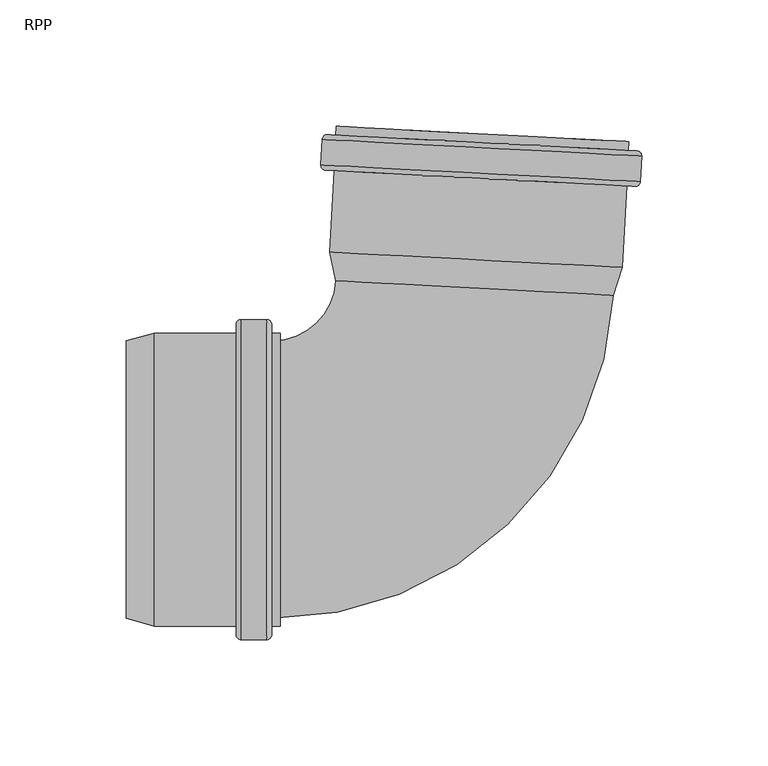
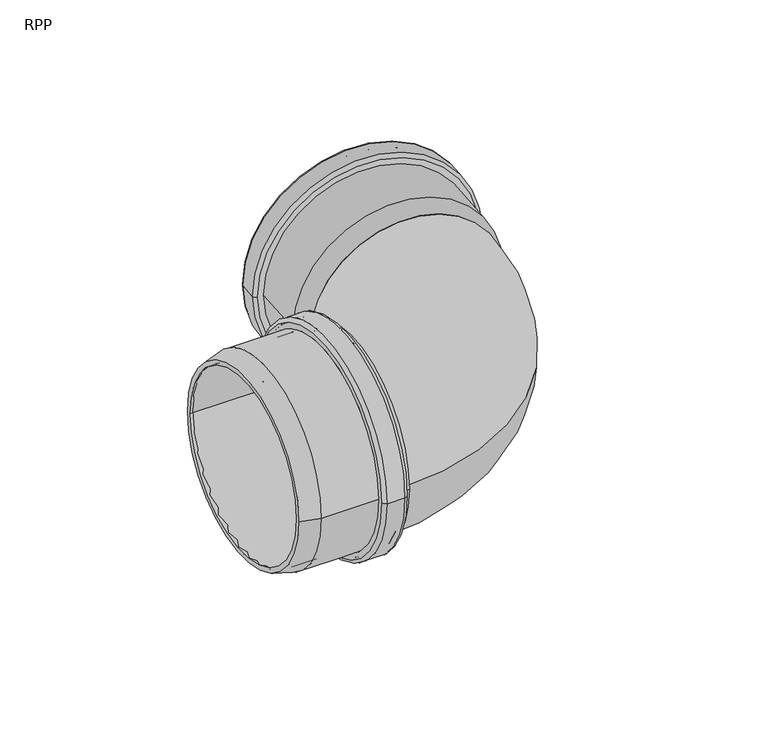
"""IFC4 building model written with IfcOpenShell, lengths in millimetres: pipe fitting geometry, RAUPIANO PLUS Bend : RPP."""

from ifc_helpers import new_model, si_unit, point, frame, origin, place, context, project, spatial, polyline, circle_curve, ellipse_curve, trimmed, source, transform, mapped, element, save
from ifc_brep_helpers import plane_surface, cylinder_surface, revolved_surface, advanced_brep


def rpp_4773ea2c(model_context):
    return source(origin(), model_context, "Body", "AdvancedBrep", [
        advanced_brep(
        [(-87.8, -55.3, 0.0), (-87.8, 55.3, 0.0), (-122.4483858, 55.3, 0.0), (-122.4483858, -55.3, 0.0), (-87.3, -60.7, 0.0), (-87.3, 60.7, 0.0), (-87.8, 60.2, 0.0), (-87.8, -60.2, 0.0), (-79.6, -60.7, 0.0), (-79.6, 60.7, 0.0), (-79.1, -60.2, 0.0), (-79.1, 60.2, 0.0), (-72.9, -55.3, 0.0), (-72.9, 55.3, 0.0), (-79.1, 55.3, 0.0), (-79.1, -55.3, 0.0), (-76.4, -58.0, 0.0), (-76.4, 58.0, 0.0), (-72.9, 58.0, 0.0), (-72.9, -58.0, 0.0), (-78.4, -63.4, 0.0), (-78.4, 63.4, 0.0), (-76.4, 61.4, 0.0), (-76.4, -61.4, 0.0), (-88.5, -63.4, 0.0), (-88.5, 63.4, 0.0), (-90.5, -61.4, 0.0), (-90.5, 61.4, 0.0), (-122.8038476, -58.0, 0.0), (-122.8038476, 58.0, 0.0), (-90.5, 58.0, 0.0), (-90.5, -58.0, 0.0), (-134.0, -55.0, 0.0), (-134.0, 55.0, 0.0), (-134.0, 52.2047543, 0.0), (-134.0, -52.2047543, 0.0)],
        [
            (0, 1, circle_curve(frame((-87.8, 0.0, 0.0), z_axis=(1.0, 0.0, 0.0), x_axis=(0.0, 1.0, 0.0)), 55.3)),
            (1, 2),
            (2, 3, circle_curve(frame((-122.4483858, 0.0, 0.0), z_axis=(-1.0, 0.0, 0.0), x_axis=(0.0, 1.0, 0.0)), 55.3)),
            (3, 0),
            (4, 5, circle_curve(frame((-87.3, 0.0, 0.0), z_axis=(1.0, 0.0, 0.0), x_axis=(0.0, 1.0, 0.0)), 60.7)),
            (5, 6, circle_curve(frame((-87.3, 60.2, 0.0), z_axis=(0.0, 0.0, 1.0), x_axis=(0.0, -1.0, 0.0)), 0.5)),
            (6, 7, circle_curve(frame((-87.8, 0.0, 0.0), z_axis=(-1.0, 0.0, 0.0), x_axis=(0.0, 1.0, 0.0)), 60.2)),
            (7, 4, circle_curve(frame((-87.3, -60.2, 0.0), z_axis=(0.0, 0.0, 1.0), x_axis=(0.0, 1.0, 0.0)), 0.5)),
            (8, 9, circle_curve(frame((-79.6, 0.0, 0.0), z_axis=(1.0, 0.0, 0.0), x_axis=(0.0, 1.0, 0.0)), 60.7)),
            (9, 5),
            (4, 8),
            (10, 11, circle_curve(frame((-79.1, 0.0, 0.0), z_axis=(1.0, 0.0, 0.0), x_axis=(0.0, 1.0, 0.0)), 60.2)),
            (11, 9, circle_curve(frame((-79.6, 60.2, 0.0), z_axis=(0.0, 0.0, 1.0), x_axis=(0.0, -1.0, 0.0)), 0.5)),
            (8, 10, circle_curve(frame((-79.6, -60.2, 0.0), z_axis=(0.0, 0.0, 1.0), x_axis=(0.0, 1.0, 0.0)), 0.5)),
            (12, 13, circle_curve(frame((-72.9, 0.0, 0.0), z_axis=(1.0, 0.0, 0.0), x_axis=(0.0, 1.0, 0.0)), 55.3)),
            (13, 14),
            (14, 15, circle_curve(frame((-79.1, 0.0, 0.0), z_axis=(-1.0, 0.0, 0.0), x_axis=(0.0, 1.0, 0.0)), 55.3)),
            (15, 12),
            (16, 17, circle_curve(frame((-76.4, 0.0, 0.0), z_axis=(1.0, 0.0, 0.0), x_axis=(0.0, 1.0, 0.0)), 58.0)),
            (17, 18),
            (18, 19, circle_curve(frame((-72.9, 0.0, 0.0), z_axis=(-1.0, 0.0, 0.0), x_axis=(0.0, 1.0, 0.0)), 58.0)),
            (19, 16),
            (20, 21, circle_curve(frame((-78.4, 0.0, 0.0), z_axis=(1.0, 0.0, 0.0), x_axis=(0.0, 1.0, 0.0)), 63.4)),
            (21, 22, circle_curve(frame((-78.4, 61.4, 0.0), z_axis=(0.0, 0.0, -1.0), x_axis=(0.0, -1.0, 0.0)), 2.0)),
            (22, 23, circle_curve(frame((-76.4, 0.0, 0.0), z_axis=(-1.0, 0.0, 0.0), x_axis=(0.0, 1.0, 0.0)), 61.4)),
            (23, 20, circle_curve(frame((-78.4, -61.4, 0.0), z_axis=(0.0, 0.0, -1.0), x_axis=(0.0, 1.0, 0.0)), 2.0)),
            (24, 25, circle_curve(frame((-88.5, 0.0, 0.0), z_axis=(1.0, 0.0, 0.0), x_axis=(0.0, 1.0, 0.0)), 63.4)),
            (25, 21),
            (20, 24),
            (26, 27, circle_curve(frame((-90.5, 0.0, 0.0), z_axis=(1.0, 0.0, 0.0), x_axis=(0.0, 1.0, 0.0)), 61.4)),
            (27, 25, circle_curve(frame((-88.5, 61.4, 0.0), z_axis=(0.0, 0.0, -1.0), x_axis=(0.0, -1.0, 0.0)), 2.0)),
            (24, 26, circle_curve(frame((-88.5, -61.4, 0.0), z_axis=(0.0, 0.0, -1.0), x_axis=(0.0, 1.0, 0.0)), 2.0)),
            (28, 29, circle_curve(frame((-122.8038476, 0.0, 0.0), z_axis=(1.0, 0.0, 0.0), x_axis=(0.0, 1.0, 0.0)), 58.0)),
            (29, 30),
            (30, 31, circle_curve(frame((-90.5, 0.0, 0.0), z_axis=(-1.0, 0.0, 0.0), x_axis=(0.0, 1.0, 0.0)), 58.0)),
            (31, 28),
            (32, 33, circle_curve(frame((-134.0, 0.0, 0.0), z_axis=(1.0, 0.0, 0.0), x_axis=(0.0, 1.0, 0.0)), 55.0)),
            (33, 29),
            (28, 32),
            (2, 34),
            (34, 35, circle_curve(frame((-134.0, 0.0, 0.0), z_axis=(-1.0, 0.0, 0.0), x_axis=(0.0, 1.0, 0.0)), 52.2047543)),
            (35, 3),
            (1, 0, circle_curve(frame((-87.8, 0.0, 0.0), z_axis=(1.0, 0.0, 0.0), x_axis=(0.0, -1.0, 0.0)), 55.3)),
            (3, 2, circle_curve(frame((-122.4483858, 0.0, 0.0), z_axis=(-1.0, 0.0, 0.0), x_axis=(0.0, -1.0, 0.0)), 55.3)),
            (6, 7, circle_curve(frame((-87.8, 0.0, 0.0), z_axis=(1.0, 0.0, 0.0), x_axis=(0.0, -1.0, 0.0)), 60.2)),
            (5, 4, circle_curve(frame((-87.3, 0.0, 0.0), z_axis=(1.0, 0.0, 0.0), x_axis=(0.0, -1.0, 0.0)), 60.7)),
            (9, 8, circle_curve(frame((-79.6, 0.0, 0.0), z_axis=(1.0, 0.0, 0.0), x_axis=(0.0, -1.0, 0.0)), 60.7)),
            (11, 10, circle_curve(frame((-79.1, 0.0, 0.0), z_axis=(1.0, 0.0, 0.0), x_axis=(0.0, -1.0, 0.0)), 60.2)),
            (14, 15, circle_curve(frame((-79.1, 0.0, 0.0), z_axis=(1.0, 0.0, 0.0), x_axis=(0.0, -1.0, 0.0)), 55.3)),
            (13, 12, circle_curve(frame((-72.9, 0.0, 0.0), z_axis=(1.0, 0.0, 0.0), x_axis=(0.0, -1.0, 0.0)), 55.3)),
            (18, 19, circle_curve(frame((-72.9, 0.0, 0.0), z_axis=(1.0, 0.0, 0.0), x_axis=(0.0, -1.0, 0.0)), 58.0)),
            (17, 16, circle_curve(frame((-76.4, 0.0, 0.0), z_axis=(1.0, 0.0, 0.0), x_axis=(0.0, -1.0, 0.0)), 58.0)),
            (22, 23, circle_curve(frame((-76.4, 0.0, 0.0), z_axis=(1.0, 0.0, 0.0), x_axis=(0.0, -1.0, 0.0)), 61.4)),
            (21, 20, circle_curve(frame((-78.4, 0.0, 0.0), z_axis=(1.0, 0.0, 0.0), x_axis=(0.0, -1.0, 0.0)), 63.4)),
            (25, 24, circle_curve(frame((-88.5, 0.0, 0.0), z_axis=(1.0, 0.0, 0.0), x_axis=(0.0, -1.0, 0.0)), 63.4)),
            (27, 26, circle_curve(frame((-90.5, 0.0, 0.0), z_axis=(1.0, 0.0, 0.0), x_axis=(0.0, -1.0, 0.0)), 61.4)),
            (30, 31, circle_curve(frame((-90.5, 0.0, 0.0), z_axis=(1.0, 0.0, 0.0), x_axis=(0.0, -1.0, 0.0)), 58.0)),
            (29, 28, circle_curve(frame((-122.8038476, 0.0, 0.0), z_axis=(1.0, 0.0, 0.0), x_axis=(0.0, -1.0, 0.0)), 58.0)),
            (33, 32, circle_curve(frame((-134.0, 0.0, 0.0), z_axis=(1.0, 0.0, 0.0), x_axis=(0.0, -1.0, 0.0)), 55.0)),
            (34, 35, circle_curve(frame((-134.0, 0.0, 0.0), z_axis=(1.0, 0.0, 0.0), x_axis=(0.0, -1.0, 0.0)), 52.2047543)),
        ],
        [
            revolved_surface(polyline([(-122.4483858, 55.3, 0.0), (-87.8, 55.3, 0.0)]), (-134.0, 0.0, 0.0), (-1.0, 0.0, 0.0)),
            revolved_surface(trimmed(ellipse_curve(frame((-87.3, 60.2, 0.0), z_axis=(0.0, 0.0, -1.0), x_axis=(0.0, -1.0, 0.0)), 0.5, 0.5), [point((-87.8, 60.2, 0.0))], [point((-87.3, 60.7, 0.0))], True, "CARTESIAN"), (-134.0, 0.0, 0.0), (-1.0, 0.0, 0.0)),
            revolved_surface(polyline([(-87.3, 60.7, 0.0), (-79.6, 60.7, 0.0)]), (-134.0, 0.0, 0.0), (-1.0, 0.0, 0.0)),
            revolved_surface(trimmed(ellipse_curve(frame((-79.6, 60.2, 0.0), z_axis=(0.0, 0.0, -1.0), x_axis=(0.0, -1.0, 0.0)), 0.5, 0.5), [point((-79.6, 60.7, 0.0))], [point((-79.1, 60.2, 0.0))], True, "CARTESIAN"), (-134.0, 0.0, 0.0), (-1.0, 0.0, 0.0)),
            revolved_surface(polyline([(-79.1, 55.3, 0.0), (-72.9, 55.3, 0.0)]), (-134.0, 0.0, 0.0), (-1.0, 0.0, 0.0)),
            cylinder_surface(frame((-134.0, 0.0, 0.0), z_axis=(-1.0, 0.0, 0.0), x_axis=(0.0, 1.0, 0.0)), 58.0),
            revolved_surface(trimmed(ellipse_curve(frame((-78.4, 61.4, 0.0), z_axis=(0.0, 0.0, 1.0), x_axis=(0.0, -1.0, 0.0)), 2.0, 2.0), [point((-76.4, 61.4, 0.0))], [point((-78.4, 63.4, 0.0))], True, "CARTESIAN"), (-134.0, 0.0, 0.0), (-1.0, 0.0, 0.0)),
            cylinder_surface(frame((-134.0, 0.0, 0.0), z_axis=(-1.0, 0.0, 0.0), x_axis=(0.0, 1.0, 0.0)), 63.4),
            revolved_surface(trimmed(ellipse_curve(frame((-88.5, 61.4, 0.0), z_axis=(0.0, 0.0, 1.0), x_axis=(0.0, -1.0, 0.0)), 2.0, 2.0), [point((-88.5, 63.4, 0.0))], [point((-90.5, 61.4, 0.0))], True, "CARTESIAN"), (-134.0, 0.0, 0.0), (-1.0, 0.0, 0.0)),
            revolved_surface(polyline([(-122.8038476, 58.0, 0.0), (-134.0, 55.0, 0.0)]), (-134.0, 0.0, 0.0), (-1.0, 0.0, 0.0)),
            revolved_surface(polyline([(-134.0, 52.2047543, 0.0), (-122.4483858, 55.3, 0.0)]), (-134.0, 0.0, 0.0), (-1.0, 0.0, 0.0)),
            revolved_surface(polyline([(-122.4483858, -55.3, 0.0), (-87.8, -55.3, 0.0)]), (-134.0, 0.0, 0.0), (-1.0, 0.0, 0.0)),
            plane_surface(frame((-87.8, 0.0, 0.0), z_axis=(1.0, 0.0, 0.0), x_axis=(0.0, -1.0, 0.0))),
            revolved_surface(trimmed(ellipse_curve(frame((-87.3, -60.2, 0.0), z_axis=(0.0, 0.0, 1.0), x_axis=(0.0, 1.0, 0.0)), 0.5, 0.5), [point((-87.8, -60.2, 0.0))], [point((-87.3, -60.7, 0.0))], True, "CARTESIAN"), (-134.0, 0.0, 0.0), (-1.0, 0.0, 0.0)),
            revolved_surface(polyline([(-87.3, -60.7, 0.0), (-79.6, -60.7, 0.0)]), (-134.0, 0.0, 0.0), (-1.0, 0.0, 0.0)),
            revolved_surface(trimmed(ellipse_curve(frame((-79.6, -60.2, 0.0), z_axis=(0.0, 0.0, 1.0), x_axis=(0.0, 1.0, 0.0)), 0.5, 0.5), [point((-79.6, -60.7, 0.0))], [point((-79.1, -60.2, 0.0))], True, "CARTESIAN"), (-134.0, 0.0, 0.0), (-1.0, 0.0, 0.0)),
            plane_surface(frame((-79.1, 0.0, 0.0), z_axis=(-1.0, 0.0, 0.0), x_axis=(0.0, -1.0, 0.0))),
            revolved_surface(polyline([(-79.1, -55.3, 0.0), (-72.9, -55.3, 0.0)]), (-134.0, 0.0, 0.0), (-1.0, 0.0, 0.0)),
            plane_surface(frame((-72.9, 0.0, 0.0), z_axis=(1.0, 0.0, 0.0), x_axis=(0.0, -1.0, 0.0))),
            cylinder_surface(frame((-134.0, 0.0, 0.0), z_axis=(-1.0, 0.0, 0.0), x_axis=(0.0, -1.0, 0.0)), 58.0),
            plane_surface(frame((-76.4, 0.0, 0.0), z_axis=(1.0, 0.0, 0.0), x_axis=(0.0, -1.0, 0.0))),
            revolved_surface(trimmed(ellipse_curve(frame((-78.4, -61.4, 0.0), z_axis=(0.0, 0.0, -1.0), x_axis=(0.0, 1.0, 0.0)), 2.0, 2.0), [point((-76.4, -61.4, 0.0))], [point((-78.4, -63.4, 0.0))], True, "CARTESIAN"), (-134.0, 0.0, 0.0), (-1.0, 0.0, 0.0)),
            cylinder_surface(frame((-134.0, 0.0, 0.0), z_axis=(-1.0, 0.0, 0.0), x_axis=(0.0, -1.0, 0.0)), 63.4),
            revolved_surface(trimmed(ellipse_curve(frame((-88.5, -61.4, 0.0), z_axis=(0.0, 0.0, -1.0), x_axis=(0.0, 1.0, 0.0)), 2.0, 2.0), [point((-88.5, -63.4, 0.0))], [point((-90.5, -61.4, 0.0))], True, "CARTESIAN"), (-134.0, 0.0, 0.0), (-1.0, 0.0, 0.0)),
            plane_surface(frame((-90.5, 0.0, 0.0), z_axis=(-1.0, 0.0, 0.0), x_axis=(0.0, -1.0, 0.0))),
            revolved_surface(polyline([(-122.8038476, -58.0, 0.0), (-134.0, -55.0, 0.0)]), (-134.0, 0.0, 0.0), (-1.0, 0.0, 0.0)),
            plane_surface(frame((-134.0, 0.0, 0.0), z_axis=(-1.0, 0.0, 0.0), x_axis=(0.0, -1.0, 0.0))),
            revolved_surface(polyline([(-134.0, -52.2047543, 0.0), (-122.4483858, -55.3, 0.0)]), (-134.0, 0.0, 0.0), (-1.0, 0.0, 0.0)),
        ],
        [
            (0, [[1, 2, 3, 4]]),
            (1, [[5, 6, 7, 8]]),
            (2, [[9, 10, -5, 11]]),
            (3, [[12, 13, -9, 14]]),
            (4, [[15, 16, 17, 18]]),
            (5, [[19, 20, 21, 22]]),
            (6, [[23, 24, 25, 26]]),
            (7, [[27, 28, -23, 29]]),
            (8, [[30, 31, -27, 32]]),
            (5, [[33, 34, 35, 36]]),
            (9, [[37, 38, -33, 39]]),
            (10, [[-3, 40, 41, 42]]),
            (11, [[43, -4, 44, -2]]),
            (12, [[45, -7], [-43, -1]]),
            (13, [[46, -8, -45, -6]]),
            (14, [[47, -11, -46, -10]]),
            (15, [[48, -14, -47, -13]]),
            (16, [[-48, -12], [49, -17]]),
            (17, [[50, -18, -49, -16]]),
            (18, [[51, -21], [-50, -15]]),
            (19, [[52, -22, -51, -20]]),
            (20, [[53, -25], [-52, -19]]),
            (21, [[54, -26, -53, -24]]),
            (22, [[55, -29, -54, -28]]),
            (23, [[56, -32, -55, -31]]),
            (24, [[-56, -30], [57, -35]]),
            (19, [[58, -36, -57, -34]]),
            (25, [[59, -39, -58, -38]]),
            (26, [[-59, -37], [60, -41]]),
            (27, [[-44, -42, -60, -40]]),
        ],
    ),
        advanced_brep(
        [(56.1107422, 73.1636589, 0.0), (-48.1556768, 78.6280304, 0.0), (-50.6421158, 90.3258061, 0.0), (59.8063107, 84.5374493, 0.0), (62.484007, 84.0411677, 0.0), (-53.357019, 90.1121386, 0.0), (-50.9470917, 78.7743222, 0.0), (58.9021571, 73.017367, 0.0), (64.1746598, 116.3007439, 0.0), (-51.6663662, 122.3717149, 0.0), (70.2005243, 128.1015471, 0.0), (-56.4257007, 134.7377464, 0.0), (-56.9542938, 124.6515881, 0.0), (69.6719312, 118.0153888, 0.0), (65.0957726, 133.8766238, 0.0), (-50.7452534, 139.9475947, 0.0), (-50.9284293, 136.4523913, 0.0), (64.9125968, 130.3814204, 0.0), (62.0749899, 127.8264277, 0.0), (-48.3734366, 133.6147845, 0.0), (-48.0489537, 139.8062876, 0.0), (62.3994729, 134.0179308, 0.0), (67.0384346, 119.3550514, 0.0), (-54.1951909, 125.7086365, 0.0), (-53.7922041, 133.3980839, 0.0), (67.4414215, 127.0444988, 0.0), (-48.8287594, 124.9267075, 0.0), (61.6196671, 119.1383508, 0.0), (-55.0617067, 122.5496571, 0.0), (67.5700002, 116.1228017, 0.0), (68.3079372, 130.2034781, 0.0), (-54.3237697, 136.6303336, 0.0), (-53.2667213, 133.8712307, 0.0), (66.9682747, 127.5699815, 0.0), (66.5129518, 118.8819046, 0.0), (-53.7220441, 125.1831537, 0.0)],
        [
            (0, 1, circle_curve(frame((3.9775327, 75.8958446, 0.0), z_axis=(-0.05233595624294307, -0.9986295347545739, 0.0), x_axis=(-0.9986295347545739, 0.05233595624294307, 0.0)), 52.2047543)),
            (1, 2),
            (2, 3, circle_curve(frame((4.5820974, 87.4316277, 0.0), z_axis=(0.05233595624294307, 0.9986295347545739, 0.0), x_axis=(-0.9986295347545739, 0.05233595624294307, 0.0)), 55.3)),
            (3, 0),
            (4, 5, circle_curve(frame((4.563494, 87.0766531, 0.0), z_axis=(-0.05233595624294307, -0.9986295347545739, 0.0), x_axis=(-0.9986295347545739, 0.05233595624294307, 0.0)), 58.0)),
            (5, 6),
            (6, 7, circle_curve(frame((3.9775327, 75.8958446, 0.0), z_axis=(0.05233595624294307, 0.9986295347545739, 0.0), x_axis=(-0.9986295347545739, 0.05233595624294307, 0.0)), 55.0)),
            (7, 4),
            (8, 9, circle_curve(frame((6.2541468, 119.3362294, 0.0), z_axis=(-0.05233595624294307, -0.9986295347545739, 0.0), x_axis=(-0.9986295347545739, 0.05233595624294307, 0.0)), 58.0)),
            (9, 5),
            (4, 8),
            (10, 11, circle_curve(frame((6.8874118, 131.4196468, 0.0), z_axis=(-0.05233595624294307, -0.9986295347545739, 0.0), x_axis=(-0.9986295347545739, 0.05233595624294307, 0.0)), 63.4)),
            (11, 12),
            (12, 13, circle_curve(frame((6.3588187, 121.3334885, 0.0), z_axis=(0.05233595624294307, 0.9986295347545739, 0.0), x_axis=(-0.9986295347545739, 0.05233595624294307, 0.0)), 63.4)),
            (13, 10),
            (14, 15, circle_curve(frame((7.1752596, 136.9121092, 0.0), z_axis=(-0.05233595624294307, -0.9986295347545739, 0.0), x_axis=(-0.9986295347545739, 0.05233595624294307, 0.0)), 58.0)),
            (15, 16),
            (16, 17, circle_curve(frame((6.9920838, 133.4169058, 0.0), z_axis=(0.05233595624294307, 0.9986295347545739, 0.0), x_axis=(-0.9986295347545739, 0.05233595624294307, 0.0)), 58.0)),
            (17, 14),
            (18, 19, circle_curve(frame((6.8507767, 130.7206061, 0.0), z_axis=(-0.05233595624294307, -0.9986295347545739, 0.0), x_axis=(-0.9986295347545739, 0.05233595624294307, 0.0)), 55.3)),
            (19, 20),
            (20, 21, circle_curve(frame((7.1752596, 136.9121092, 0.0), z_axis=(0.05233595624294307, 0.9986295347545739, 0.0), x_axis=(-0.9986295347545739, 0.05233595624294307, 0.0)), 55.3)),
            (21, 18),
            (22, 23, circle_curve(frame((6.4216218, 122.5318439, 0.0), z_axis=(-0.05233595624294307, -0.9986295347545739, 0.0), x_axis=(-0.9986295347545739, 0.05233595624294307, 0.0)), 60.7)),
            (23, 24),
            (24, 25, circle_curve(frame((6.8246087, 130.2212913, 0.0), z_axis=(0.05233595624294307, 0.9986295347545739, 0.0), x_axis=(-0.9986295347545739, 0.05233595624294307, 0.0)), 60.7)),
            (25, 22),
            (2, 26),
            (26, 27, circle_curve(frame((6.3954539, 122.0325291, 0.0), z_axis=(0.05233595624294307, 0.9986295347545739, 0.0), x_axis=(-0.9986295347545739, 0.05233595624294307, 0.0)), 55.3)),
            (27, 3),
            (1, 0, circle_curve(frame((3.9775327, 75.8958446, 0.0), z_axis=(-0.05233595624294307, -0.9986295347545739, 0.0), x_axis=(0.9986295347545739, -0.05233595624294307, 0.0)), 52.2047543)),
            (3, 2, circle_curve(frame((4.5820974, 87.4316277, 0.0), z_axis=(0.05233595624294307, 0.9986295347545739, 0.0), x_axis=(0.9986295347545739, -0.05233595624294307, 0.0)), 55.3)),
            (6, 7, circle_curve(frame((3.9775327, 75.8958446, 0.0), z_axis=(-0.05233595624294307, -0.9986295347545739, 0.0), x_axis=(0.9986295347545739, -0.05233595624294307, 0.0)), 55.0)),
            (5, 4, circle_curve(frame((4.563494, 87.0766531, 0.0), z_axis=(-0.05233595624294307, -0.9986295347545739, 0.0), x_axis=(0.9986295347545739, -0.05233595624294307, 0.0)), 58.0)),
            (9, 8, circle_curve(frame((6.2541468, 119.3362294, 0.0), z_axis=(-0.05233595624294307, -0.9986295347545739, 0.0), x_axis=(0.9986295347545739, -0.05233595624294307, 0.0)), 58.0)),
            (28, 29, circle_curve(frame((6.2541468, 119.3362294, 0.0), z_axis=(-0.05233595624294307, -0.9986295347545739, 0.0), x_axis=(0.9986295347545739, -0.05233595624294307, 0.0)), 61.4)),
            (29, 28, circle_curve(frame((6.2541468, 119.3362294, 0.0), z_axis=(-0.05233595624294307, -0.9986295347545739, 0.0), x_axis=(-0.9986295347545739, 0.05233595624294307, 0.0)), 61.4)),
            (11, 10, circle_curve(frame((6.8874118, 131.4196468, 0.0), z_axis=(-0.05233595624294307, -0.9986295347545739, 0.0), x_axis=(0.9986295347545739, -0.05233595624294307, 0.0)), 63.4)),
            (13, 12, circle_curve(frame((6.3588187, 121.3334885, 0.0), z_axis=(0.05233595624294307, 0.9986295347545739, 0.0), x_axis=(0.9986295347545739, -0.05233595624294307, 0.0)), 63.4)),
            (30, 31, circle_curve(frame((6.9920838, 133.4169058, 0.0), z_axis=(0.05233595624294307, 0.9986295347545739, 0.0), x_axis=(0.9986295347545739, -0.05233595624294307, 0.0)), 61.4)),
            (31, 30, circle_curve(frame((6.9920838, 133.4169058, 0.0), z_axis=(0.05233595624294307, 0.9986295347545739, 0.0), x_axis=(-0.9986295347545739, 0.05233595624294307, 0.0)), 61.4)),
            (16, 17, circle_curve(frame((6.9920838, 133.4169058, 0.0), z_axis=(-0.05233595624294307, -0.9986295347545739, 0.0), x_axis=(0.9986295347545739, -0.05233595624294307, 0.0)), 58.0)),
            (15, 14, circle_curve(frame((7.1752596, 136.9121092, 0.0), z_axis=(-0.05233595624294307, -0.9986295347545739, 0.0), x_axis=(0.9986295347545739, -0.05233595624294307, 0.0)), 58.0)),
            (20, 21, circle_curve(frame((7.1752596, 136.9121092, 0.0), z_axis=(-0.05233595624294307, -0.9986295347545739, 0.0), x_axis=(0.9986295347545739, -0.05233595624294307, 0.0)), 55.3)),
            (19, 18, circle_curve(frame((6.8507767, 130.7206061, 0.0), z_axis=(-0.05233595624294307, -0.9986295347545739, 0.0), x_axis=(0.9986295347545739, -0.05233595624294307, 0.0)), 55.3)),
            (32, 33, circle_curve(frame((6.8507767, 130.7206061, 0.0), z_axis=(-0.05233595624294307, -0.9986295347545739, 0.0), x_axis=(0.9986295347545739, -0.05233595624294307, 0.0)), 60.2)),
            (33, 32, circle_curve(frame((6.8507767, 130.7206061, 0.0), z_axis=(-0.05233595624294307, -0.9986295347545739, 0.0), x_axis=(-0.9986295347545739, 0.05233595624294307, 0.0)), 60.2)),
            (23, 22, circle_curve(frame((6.4216218, 122.5318439, 0.0), z_axis=(-0.05233595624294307, -0.9986295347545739, 0.0), x_axis=(0.9986295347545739, -0.05233595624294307, 0.0)), 60.7)),
            (25, 24, circle_curve(frame((6.8246087, 130.2212913, 0.0), z_axis=(0.05233595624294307, 0.9986295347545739, 0.0), x_axis=(0.9986295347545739, -0.05233595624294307, 0.0)), 60.7)),
            (34, 35, circle_curve(frame((6.3954539, 122.0325291, 0.0), z_axis=(0.05233595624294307, 0.9986295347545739, 0.0), x_axis=(0.9986295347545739, -0.05233595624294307, 0.0)), 60.2)),
            (35, 34, circle_curve(frame((6.3954539, 122.0325291, 0.0), z_axis=(0.05233595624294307, 0.9986295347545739, 0.0), x_axis=(-0.9986295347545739, 0.05233595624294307, 0.0)), 60.2)),
            (26, 27, circle_curve(frame((6.3954539, 122.0325291, 0.0), z_axis=(-0.05233595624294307, -0.9986295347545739, 0.0), x_axis=(0.9986295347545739, -0.05233595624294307, 0.0)), 55.3)),
            (12, 28, circle_curve(frame((-54.9570348, 124.5469162, 0.0), z_axis=(0.0, 0.0, 1.0), x_axis=(0.9986295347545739, -0.052335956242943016, 0.0)), 2.0)),
            (29, 13, circle_curve(frame((67.6746721, 118.1200608, 0.0), z_axis=(0.0, 0.0, 1.0), x_axis=(-0.9986295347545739, 0.05233595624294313, 0.0)), 2.0)),
            (31, 11, circle_curve(frame((-54.4284416, 134.6330745, 0.0), z_axis=(0.0, 0.0, 1.0), x_axis=(0.9986295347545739, -0.052335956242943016, 0.0)), 2.0)),
            (10, 30, circle_curve(frame((68.2032653, 128.2062191, 0.0), z_axis=(0.0, 0.0, 1.0), x_axis=(-0.9986295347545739, 0.05233595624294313, 0.0)), 2.0)),
            (24, 32, circle_curve(frame((-53.2928893, 133.3719159, 0.0), z_axis=(0.0, 0.0, -1.0), x_axis=(0.9986295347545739, -0.052335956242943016, 0.0)), 0.5)),
            (33, 25, circle_curve(frame((66.9421067, 127.0706668, 0.0), z_axis=(0.0, 0.0, -1.0), x_axis=(-0.9986295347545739, 0.05233595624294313, 0.0)), 0.5)),
            (35, 23, circle_curve(frame((-53.6958762, 125.6824685, 0.0), z_axis=(0.0, 0.0, -1.0), x_axis=(0.9986295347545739, -0.052335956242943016, 0.0)), 0.5)),
            (22, 34, circle_curve(frame((66.5391198, 119.3812193, 0.0), z_axis=(0.0, 0.0, -1.0), x_axis=(-0.9986295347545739, 0.05233595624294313, 0.0)), 0.5)),
        ],
        [
            revolved_surface(polyline([(-50.6421158, 90.3258061, 0.0), (-48.1556768, 78.6280304, 0.0)]), (3.9775327, 75.8958446, 0.0), (0.05233595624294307, 0.9986295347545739, 0.0)),
            revolved_surface(polyline([(-50.9470917, 78.7743222, 0.0), (-53.357019, 90.1121386, 0.0)]), (3.9775327, 75.8958446, 0.0), (0.05233595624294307, 0.9986295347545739, 0.0)),
            cylinder_surface(frame((3.9775327, 75.8958446, 0.0), z_axis=(0.05233595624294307, 0.9986295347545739, 0.0), x_axis=(-0.9986295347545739, 0.05233595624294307, 0.0)), 58.0),
            cylinder_surface(frame((3.9775327, 75.8958446, 0.0), z_axis=(0.05233595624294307, 0.9986295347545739, 0.0), x_axis=(-0.9986295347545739, 0.05233595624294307, 0.0)), 63.4),
            revolved_surface(polyline([(-48.048953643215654, 139.80628759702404, 0.0), (-48.37343657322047, 133.61478445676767, 0.0)]), (3.9775327, 75.8958446, 0.0), (0.05233595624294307, 0.9986295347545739, 0.0)),
            revolved_surface(polyline([(-53.7922040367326, 133.39808389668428, 0.0), (-54.19519090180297, 125.7086364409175, 0.0)]), (3.9775327, 75.8958446, 0.0), (0.05233595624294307, 0.9986295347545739, 0.0)),
            revolved_surface(polyline([(-48.82875938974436, 124.92670755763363, 0.0), (-50.64211579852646, 90.32580605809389, 0.0)]), (3.9775327, 75.8958446, 0.0), (0.05233595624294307, 0.9986295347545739, 0.0)),
            revolved_surface(polyline([(59.8063107, 84.5374493, 0.0), (56.1107422, 73.1636589, 0.0)]), (3.9775327, 75.8958446, 0.0), (0.05233595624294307, 0.9986295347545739, 0.0)),
            plane_surface(frame((3.9775327, 75.8958446, 0.0), z_axis=(-0.05233595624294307, -0.9986295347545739, 0.0), x_axis=(0.9986295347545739, -0.05233595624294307, 0.0))),
            revolved_surface(polyline([(58.9021571, 73.017367, 0.0), (62.484007, 84.0411677, 0.0)]), (3.9775327, 75.8958446, 0.0), (0.05233595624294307, 0.9986295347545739, 0.0)),
            cylinder_surface(frame((3.9775327, 75.8958446, 0.0), z_axis=(0.05233595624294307, 0.9986295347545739, 0.0), x_axis=(0.9986295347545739, -0.05233595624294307, 0.0)), 58.0),
            plane_surface(frame((6.2541468, 119.3362294, 0.0), z_axis=(-0.05233595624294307, -0.9986295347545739, 0.0), x_axis=(0.9986295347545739, -0.05233595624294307, 0.0))),
            cylinder_surface(frame((3.9775327, 75.8958446, 0.0), z_axis=(0.05233595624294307, 0.9986295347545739, 0.0), x_axis=(0.9986295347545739, -0.05233595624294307, 0.0)), 63.4),
            plane_surface(frame((6.9920838, 133.4169058, 0.0), z_axis=(0.05233595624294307, 0.9986295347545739, 0.0), x_axis=(0.9986295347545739, -0.05233595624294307, 0.0))),
            plane_surface(frame((7.1752596, 136.9121092, 0.0), z_axis=(0.05233595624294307, 0.9986295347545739, 0.0), x_axis=(0.9986295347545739, -0.05233595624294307, 0.0))),
            revolved_surface(polyline([(62.39947290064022, 134.01793083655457, 0.0), (62.07498997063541, 127.82642769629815, 0.0)]), (3.9775327, 75.8958446, 0.0), (0.05233595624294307, 0.9986295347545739, 0.0)),
            plane_surface(frame((6.8507767, 130.7206061, 0.0), z_axis=(-0.05233595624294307, -0.9986295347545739, 0.0), x_axis=(0.9986295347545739, -0.05233595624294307, 0.0))),
            revolved_surface(polyline([(67.44142148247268, 127.04449880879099, 0.0), (67.03843461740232, 119.35505135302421, 0.0)]), (3.9775327, 75.8958446, 0.0), (0.05233595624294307, 0.9986295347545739, 0.0)),
            plane_surface(frame((6.3954539, 122.0325291, 0.0), z_axis=(0.05233595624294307, 0.9986295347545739, 0.0), x_axis=(0.9986295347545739, -0.05233595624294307, 0.0))),
            revolved_surface(polyline([(61.61966715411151, 119.13835079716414, 0.0), (59.80631074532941, 84.53744929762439, 0.0)]), (3.9775327, 75.8958446, 0.0), (0.05233595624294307, 0.9986295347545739, 0.0)),
            revolved_surface(trimmed(ellipse_curve(frame((-54.9570348, 124.5469162, 0.0), z_axis=(0.0, 0.0, -1.0), x_axis=(0.9986295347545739, -0.052335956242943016, 0.0)), 2.0, 2.0), [point((-55.0617067, 122.5496571, 0.0))], [point((-56.9542938, 124.6515881, 0.0))], True, "CARTESIAN"), (3.9775327, 75.8958446, 0.0), (0.05233595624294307, 0.9986295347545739, 0.0)),
            revolved_surface(trimmed(ellipse_curve(frame((-54.4284416, 134.6330745, 0.0), z_axis=(0.0, 0.0, -1.0), x_axis=(0.9986295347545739, -0.052335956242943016, 0.0)), 2.0, 2.0), [point((-56.4257007, 134.7377464, 0.0))], [point((-54.3237697, 136.6303336, 0.0))], True, "CARTESIAN"), (3.9775327, 75.8958446, 0.0), (0.05233595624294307, 0.9986295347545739, 0.0)),
            revolved_surface(trimmed(ellipse_curve(frame((-53.2928893, 133.3719159, 0.0), z_axis=(0.0, 0.0, 1.0), x_axis=(0.9986295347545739, -0.052335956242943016, 0.0)), 0.5, 0.5), [point((-53.2667213, 133.8712307, 0.0))], [point((-53.7922041, 133.3980839, 0.0))], True, "CARTESIAN"), (3.9775327, 75.8958446, 0.0), (0.05233595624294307, 0.9986295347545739, 0.0)),
            revolved_surface(trimmed(ellipse_curve(frame((-53.6958762, 125.6824685, 0.0), z_axis=(0.0, 0.0, 1.0), x_axis=(0.9986295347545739, -0.052335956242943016, 0.0)), 0.5, 0.5), [point((-54.1951909, 125.7086365, 0.0))], [point((-53.7220441, 125.1831537, 0.0))], True, "CARTESIAN"), (3.9775327, 75.8958446, 0.0), (0.05233595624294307, 0.9986295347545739, 0.0)),
            revolved_surface(trimmed(ellipse_curve(frame((67.6746721, 118.1200608, 0.0), z_axis=(0.0, 0.0, 1.0), x_axis=(-0.9986295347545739, 0.052335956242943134, 0.0)), 2.0, 2.0), [point((67.5700002, 116.1228017, 0.0))], [point((69.6719312, 118.0153888, 0.0))], True, "CARTESIAN"), (3.9775327, 75.8958446, 0.0), (0.05233595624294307, 0.9986295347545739, 0.0)),
            revolved_surface(trimmed(ellipse_curve(frame((68.2032653, 128.2062191, 0.0), z_axis=(0.0, 0.0, 1.0), x_axis=(-0.9986295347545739, 0.052335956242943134, 0.0)), 2.0, 2.0), [point((70.2005243, 128.1015471, 0.0))], [point((68.3079372, 130.2034781, 0.0))], True, "CARTESIAN"), (3.9775327, 75.8958446, 0.0), (0.05233595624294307, 0.9986295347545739, 0.0)),
            revolved_surface(trimmed(ellipse_curve(frame((66.9421067, 127.0706668, 0.0), z_axis=(0.0, 0.0, -1.0), x_axis=(-0.9986295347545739, 0.052335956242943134, 0.0)), 0.5, 0.5), [point((66.9682747, 127.5699815, 0.0))], [point((67.4414215, 127.0444988, 0.0))], True, "CARTESIAN"), (3.9775327, 75.8958446, 0.0), (0.05233595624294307, 0.9986295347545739, 0.0)),
            revolved_surface(trimmed(ellipse_curve(frame((66.5391198, 119.3812193, 0.0), z_axis=(0.0, 0.0, -1.0), x_axis=(-0.9986295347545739, 0.052335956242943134, 0.0)), 0.5, 0.5), [point((67.0384346, 119.3550514, 0.0))], [point((66.5129518, 118.8819046, 0.0))], True, "CARTESIAN"), (3.9775327, 75.8958446, 0.0), (0.05233595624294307, 0.9986295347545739, 0.0)),
        ],
        [
            (0, [[1, 2, 3, 4]]),
            (1, [[5, 6, 7, 8]]),
            (2, [[9, 10, -5, 11]]),
            (3, [[12, 13, 14, 15]]),
            (2, [[16, 17, 18, 19]]),
            (4, [[20, 21, 22, 23]]),
            (5, [[24, 25, 26, 27]]),
            (6, [[-3, 28, 29, 30]]),
            (7, [[31, -4, 32, -2]]),
            (8, [[33, -7], [-31, -1]]),
            (9, [[34, -8, -33, -6]]),
            (10, [[35, -11, -34, -10]]),
            (11, [[36, 37], [-35, -9]]),
            (12, [[38, -15, 39, -13]]),
            (13, [[40, 41], [42, -18]]),
            (10, [[43, -19, -42, -17]]),
            (14, [[-43, -16], [44, -22]]),
            (15, [[45, -23, -44, -21]]),
            (16, [[46, 47], [-45, -20]]),
            (17, [[48, -27, 49, -25]]),
            (18, [[50, 51], [52, -29]]),
            (19, [[-32, -30, -52, -28]]),
            (20, [[-14, 53, -37, 54]]),
            (21, [[-41, 55, -12, 56]]),
            (22, [[-26, 57, -47, 58]]),
            (23, [[-51, 59, -24, 60]]),
            (24, [[-39, -54, -36, -53]]),
            (25, [[-40, -56, -38, -55]]),
            (26, [[-49, -58, -46, -57]]),
            (27, [[-50, -60, -48, -59]]),
        ],
    ),
        advanced_brep(
        [(-76.0, 52.3, 0.0), (-76.0, -52.3, 0.0), (-134.0, -52.3, 0.0), (-134.0, 52.3, 0.0), (-126.9091035, 55.0, 0.0), (-126.9091035, -55.0, 0.0), (-76.0, -55.0, 0.0), (-76.0, 55.0, 0.0), (-134.0, 53.1, 0.0), (-134.0, -53.1, 0.0)],
        [
            (0, 1, circle_curve(frame((-76.0, 0.0, 0.0), z_axis=(1.0, 0.0, 0.0), x_axis=(0.0, -1.0, 0.0)), 52.3)),
            (1, 2),
            (2, 3, circle_curve(frame((-134.0, 0.0, 0.0), z_axis=(-1.0, 0.0, 0.0), x_axis=(0.0, -1.0, 0.0)), 52.3)),
            (3, 0),
            (4, 5, circle_curve(frame((-126.9091035, 0.0, 0.0), z_axis=(1.0, 0.0, 0.0), x_axis=(0.0, -1.0, 0.0)), 55.0)),
            (5, 6),
            (6, 7, circle_curve(frame((-76.0, 0.0, 0.0), z_axis=(-1.0, 0.0, 0.0), x_axis=(0.0, -1.0, 0.0)), 55.0)),
            (7, 4),
            (8, 9, circle_curve(frame((-134.0, 0.0, 0.0), z_axis=(1.0, 0.0, 0.0), x_axis=(0.0, -1.0, 0.0)), 53.1)),
            (9, 5),
            (4, 8),
            (1, 0, circle_curve(frame((-76.0, 0.0, 0.0), z_axis=(1.0, 0.0, 0.0), x_axis=(0.0, 1.0, 0.0)), 52.3)),
            (3, 2, circle_curve(frame((-134.0, 0.0, 0.0), z_axis=(-1.0, 0.0, 0.0), x_axis=(0.0, 1.0, 0.0)), 52.3)),
            (6, 7, circle_curve(frame((-76.0, 0.0, 0.0), z_axis=(1.0, 0.0, 0.0), x_axis=(0.0, 1.0, 0.0)), 55.0)),
            (5, 4, circle_curve(frame((-126.9091035, 0.0, 0.0), z_axis=(1.0, 0.0, 0.0), x_axis=(0.0, 1.0, 0.0)), 55.0)),
            (9, 8, circle_curve(frame((-134.0, 0.0, 0.0), z_axis=(1.0, 0.0, 0.0), x_axis=(0.0, 1.0, 0.0)), 53.1)),
        ],
        [
            revolved_surface(polyline([(-134.0, -52.3, 0.0), (-76.0, -52.3, 0.0)]), (-76.0, 0.0, 0.0), (-1.0, 0.0, 0.0)),
            cylinder_surface(frame((-76.0, 0.0, 0.0), z_axis=(-1.0, 0.0, 0.0), x_axis=(0.0, -1.0, 0.0)), 55.0),
            revolved_surface(polyline([(-126.9091035, -55.0, 0.0), (-134.0, -53.1, 0.0)]), (-76.0, 0.0, 0.0), (-1.0, 0.0, 0.0)),
            revolved_surface(polyline([(-134.0, 52.3, 0.0), (-76.0, 52.3, 0.0)]), (-76.0, 0.0, 0.0), (-1.0, 0.0, 0.0)),
            plane_surface(frame((-76.0, 0.0, 0.0), z_axis=(1.0, 0.0, 0.0), x_axis=(0.0, 1.0, 0.0))),
            cylinder_surface(frame((-76.0, 0.0, 0.0), z_axis=(-1.0, 0.0, 0.0), x_axis=(0.0, 1.0, 0.0)), 55.0),
            revolved_surface(polyline([(-126.9091035, 55.0, 0.0), (-134.0, 53.1, 0.0)]), (-76.0, 0.0, 0.0), (-1.0, 0.0, 0.0)),
            plane_surface(frame((-134.0, 0.0, 0.0), z_axis=(-1.0, 0.0, 0.0), x_axis=(0.0, 1.0, 0.0))),
        ],
        [
            (0, [[1, 2, 3, 4]]),
            (1, [[5, 6, 7, 8]]),
            (2, [[9, 10, -5, 11]]),
            (3, [[12, -4, 13, -2]]),
            (4, [[14, -7], [-12, -1]]),
            (5, [[15, -8, -14, -6]]),
            (6, [[16, -11, -15, -10]]),
            (7, [[-16, -9], [-13, -3]]),
        ],
    ),
        advanced_brep(
        [(-76.0, -55.0, 0.0), (-76.0, 55.0, 0.0), (-76.0, -52.3, 0.0), (-76.0, 52.3, 0.0), (58.9021571, 73.017367, 0.0), (-50.9470917, 78.7743222, 0.0), (56.2058573, 73.1586741, 0.0), (-48.250792, 78.6330152, 0.0)],
        [
            (0, 1, circle_curve(frame((-76.0, 0.0, 0.0), z_axis=(-1.0, 0.0, 0.0), x_axis=(0.0, 1.0, 0.0)), 55.0)),
            (1, 0, circle_curve(frame((-76.0, 0.0, 0.0), z_axis=(-1.0, 0.0, 0.0), x_axis=(0.0, 1.0, 0.0)), 55.0)),
            (2, 3, circle_curve(frame((-76.0, 0.0, 0.0), z_axis=(1.0, 0.0, 0.0), x_axis=(0.0, 1.0, 0.0)), 52.3)),
            (3, 2, circle_curve(frame((-76.0, 0.0, 0.0), z_axis=(1.0, 0.0, 0.0), x_axis=(0.0, 1.0, 0.0)), 52.3)),
            (4, 5, circle_curve(frame((3.9775327, 75.8958446, 0.0), z_axis=(0.05233595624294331, 0.9986295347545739, 0.0), x_axis=(-0.9986295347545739, 0.05233595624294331, 0.0)), 55.0)),
            (5, 4, circle_curve(frame((3.9775327, 75.8958446, 0.0), z_axis=(0.05233595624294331, 0.9986295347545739, 0.0), x_axis=(-0.9986295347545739, 0.05233595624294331, 0.0)), 55.0)),
            (6, 7, circle_curve(frame((3.9775327, 75.8958446, 0.0), z_axis=(-0.05233595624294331, -0.9986295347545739, 0.0), x_axis=(-0.9986295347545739, 0.05233595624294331, 0.0)), 52.3)),
            (7, 6, circle_curve(frame((3.9775327, 75.8958446, 0.0), z_axis=(-0.05233595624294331, -0.9986295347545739, 0.0), x_axis=(-0.9986295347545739, 0.05233595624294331, 0.0)), 52.3)),
            (7, 3, circle_curve(frame((-76.0, 80.0872895, 0.0), z_axis=(0.0, 0.0, -1.0), x_axis=(0.0, -1.0, 0.0)), 27.7872895)),
            (2, 6, circle_curve(frame((-76.0, 80.0872895, 0.0), z_axis=(0.0, 0.0, 1.0), x_axis=(0.0, -1.0, 0.0)), 132.3872895)),
            (5, 1, circle_curve(frame((-76.0, 80.0872895, 0.0), z_axis=(0.0, 0.0, -1.0), x_axis=(0.0, -1.0, 0.0)), 25.0872895)),
            (0, 4, circle_curve(frame((-76.0, 80.0872895, 0.0), z_axis=(0.0, 0.0, 1.0), x_axis=(0.0, -1.0, 0.0)), 135.0872895)),
        ],
        [
            plane_surface(frame((-76.0, 0.0, 0.0), z_axis=(-1.0, 0.0, 0.0), x_axis=(0.0, 0.0, 1.0))),
            plane_surface(frame((3.9775327, 75.8958446, 0.0), z_axis=(0.05233595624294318, 0.9986295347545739, 0.0), x_axis=(0.0, 0.0, 1.0))),
            revolved_surface(trimmed(ellipse_curve(frame((-76.0, 0.0, 0.0), z_axis=(1.0, 0.0, 0.0), x_axis=(0.0, 1.0, 0.0)), 52.3, 52.3), [point((-76.0, -52.3, 0.0))], [point((-76.0, 52.3, 0.0))], True, "CARTESIAN"), (-76.0, 80.0872895, 0.0), (0.0, 0.0, 1.0)),
            revolved_surface(trimmed(ellipse_curve(frame((-76.0, 0.0, 0.0), z_axis=(1.0, 0.0, 0.0), x_axis=(0.0, 1.0, 0.0)), 52.3, 52.3), [point((-76.0, 52.3, 0.0))], [point((-76.0, -52.3, 0.0))], True, "CARTESIAN"), (-76.0, 80.0872895, 0.0), (0.0, 0.0, 1.0)),
            revolved_surface(trimmed(ellipse_curve(frame((-76.0, 0.0, 0.0), z_axis=(-1.0, 0.0, 0.0), x_axis=(0.0, 1.0, 0.0)), 55.0, 55.0), [point((-76.0, -55.0, 0.0))], [point((-76.0, 55.0, 0.0))], True, "CARTESIAN"), (-76.0, 80.0872895, 0.0), (0.0, 0.0, 1.0)),
            revolved_surface(trimmed(ellipse_curve(frame((-76.0, 0.0, 0.0), z_axis=(-1.0, 0.0, 0.0), x_axis=(0.0, 1.0, 0.0)), 55.0, 55.0), [point((-76.0, 55.0, 0.0))], [point((-76.0, -55.0, 0.0))], True, "CARTESIAN"), (-76.0, 80.0872895, 0.0), (0.0, 0.0, 1.0)),
        ],
        [
            (0, [[1, 2], [3, 4]]),
            (1, [[5, 6], [7, 8]]),
            (2, [[9, -3, 10, -8]]),
            (3, [[-10, -4, -9, -7]]),
            (4, [[11, -1, 12, -6]]),
            (5, [[-12, -2, -11, -5]]),
        ],
    ),
    ])


if __name__ == "__main__":
    model = new_model("IFC4")
    model_context = context("Model", 3, world=origin())
    ifc_project = project(units=[si_unit("LENGTHUNIT", "METRE", prefix="MILLI")], contexts=[model_context])
    site = spatial("IfcSite", under=ifc_project)
    building = spatial("IfcBuilding", under=site)
    placement = place(None, origin())
    rpp_shape = rpp_4773ea2c(model_context)
    element("IfcPipeFitting", 1, ObjectType="RAUPIANO PLUS Bend : RPP", at=placement, inside=building, context=model_context, shape_type="MappedRepresentation", body=[
        mapped(rpp_shape, transform((0.0, 0.0, 0.0), x_axis=(1.0, 0.0, 0.0), y_axis=(0.0, 1.0, 0.0), z_axis=(0.0, 0.0, 1.0))),
    ])
    save(model, "model.ifc")
